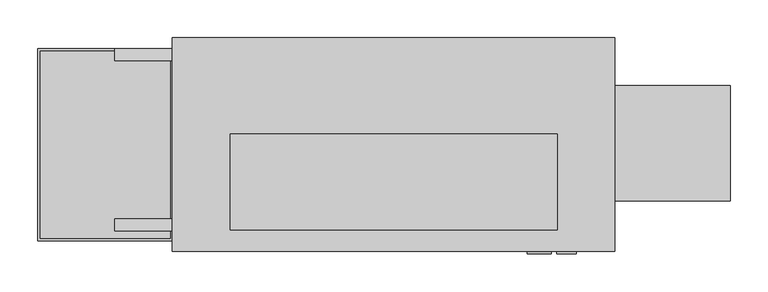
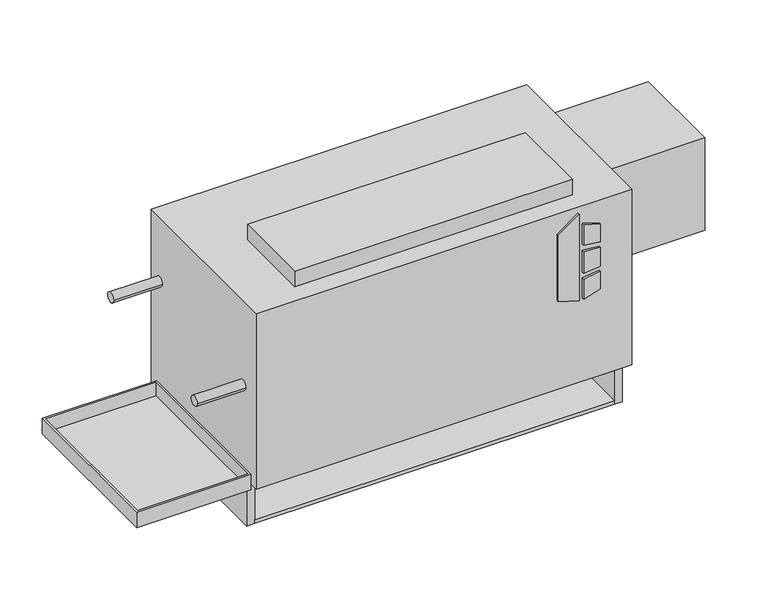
"""IFC4 building model written with IfcOpenShell, lengths in millimetres: proxy geometry, Concealed_Vertical_Low_Boy_Fan_Coil_Unit Fan_-_LHA_-_IEC_-_2-Pipe_LH_2022 : Size 02 - 277v/60Hz/1Ph - 2/1 Coil."""

from ifc_helpers import new_model, si_unit, point, frame, frame_2d, origin, origin_with_axes, place, context, project, spatial, polyline, circle_curve, trimmed, segment, composite_curve, outline, extrude, faceted_brep, source, transform, mapped, element, save


def mechanical_equipment_14cdb50c(model_context):
    return source(origin(), model_context, "Body", "SolidModel", [
        faceted_brep([(152.4, -252.4125, 92.075), (-25.4, -252.4125, 92.075), (-25.4, -506.4125, 92.075), (152.4, -506.4125, 92.075), (-22.225, -255.5875, 92.075), (149.225, -255.5875, 92.075), (149.225, -503.2375, 92.075), (-22.225, -503.2375, 92.075), (152.4, -252.4125, 66.675), (152.4, -506.4125, 66.675), (-25.4, -506.4125, 66.675), (-25.4, -252.4125, 66.675), (149.225, -255.5875, 69.8497888), (-22.225, -255.5875, 69.8497888), (-22.225, -503.2375, 69.8497888), (149.225, -503.2375, 69.8497888)], [[[0, 1, 2, 3], [4, 5, 6, 7]], [[8, 9, 10, 11]], [[1, 0, 8, 11]], [[2, 1, 11, 10]], [[3, 2, 10, 9]], [[0, 3, 9, 8]], [[12, 13, 14, 15]], [[13, 12, 5, 4]], [[14, 13, 4, 7]], [[15, 14, 7, 6]], [[12, 15, 6, 5]]]),
        extrude(outline(composite_curve([segment(trimmed(circle_curve(frame_2d((63.5, -379.4125)), 9.525), [point((53.975, -379.4125))], [point((73.025, -379.4125))], False, "CARTESIAN"), True, "CONTINUOUS"), segment(trimmed(circle_curve(frame_2d((63.5, -379.4125)), 9.525), [point((73.025, -379.4125))], [point((53.975, -379.4125))], False, "CARTESIAN"), True, "CONTINUOUS")], self_intersect=False)), frame((0.0, 0.0, 41.275), z_axis=(0.0, 0.0, 1.0), x_axis=(1.0, 0.0, 0.0)), (0.0, 0.0, 1.0), 25.4),
        extrude(outline(polyline([(222.6730703, 620.7868862), (212.725, 652.9602728), (354.8959244, 652.9602728), (331.8739183, 620.7868862), (222.6730703, 620.7868862)])), frame((0.0, -523.875, 0.0), z_axis=(0.0, 1.0, 0.0), x_axis=(0.0, 0.0, 1.0)), (0.0, 0.0, 1.0), 3.175),
        extrude(outline(polyline([(301.6723557, 659.7186058), (298.4699632, 685.8), (327.6988042, 685.8), (335.7632193, 659.7186058), (301.6723557, 659.7186058)])), frame((0.0, -523.875, 0.0), z_axis=(0.0, 1.0, 0.0), x_axis=(0.0, 0.0, 1.0)), (0.0, 0.0, 1.0), 3.175),
        extrude(outline(polyline([(249.8088288, 685.8), (246.1433279, 659.7186058), (212.725, 659.7186058), (221.3592372, 685.8), (249.8088288, 685.8)])), frame((0.0, -523.875, 0.0), z_axis=(0.0, 1.0, 0.0), x_axis=(0.0, 0.0, 1.0)), (0.0, 0.0, 1.0), 3.175),
        extrude(outline(polyline([(289.1239903, 685.8), (291.4058166, 659.7186058), (255.4682681, 659.7186058), (258.2095331, 685.8), (289.1239903, 685.8)])), frame((0.0, -523.875, 0.0), z_axis=(0.0, 1.0, 0.0), x_axis=(0.0, 0.0, 1.0)), (0.0, 0.0, 1.0), 3.175),
        extrude(outline(polyline([(660.4, -365.125), (660.4, -492.125), (228.6, -492.125), (228.6, -365.125), (660.4, -365.125)])), frame((0.0, 0.0, 365.125), z_axis=(0.0, 0.0, 1.0), x_axis=(1.0, 0.0, 0.0)), (0.0, 0.0, 1.0), 25.4),
        extrude(outline(polyline([(736.6, -520.7), (152.4, -520.7), (152.4, -238.125), (736.6, -238.125), (736.6, -520.7)])), frame((0.0, 0.0, 76.2), z_axis=(0.0, 0.0, 1.0), x_axis=(1.0, 0.0, 0.0)), (0.0, 0.0, 1.0), 288.925),
        extrude(outline(polyline([(723.9, -495.3), (165.1, -495.3), (165.1, -244.475), (723.9, -244.475), (723.9, -495.3)])), origin_with_axes(), (0.0, 0.0, 1.0), 6.35),
        extrude(outline(polyline([(723.9, -238.125), (723.9, -244.475), (165.1, -244.475), (165.1, -238.125), (723.9, -238.125)])), origin_with_axes(), (0.0, 0.0, 1.0), 76.2),
        extrude(outline(polyline([(736.6, -238.125), (736.6, -495.3), (723.9, -495.3), (723.9, -238.125), (736.6, -238.125)])), origin_with_axes(), (0.0, 0.0, 1.0), 76.2),
        extrude(outline(polyline([(165.1, -238.125), (165.1, -495.3), (152.4, -495.3), (152.4, -238.125), (165.1, -238.125)])), origin_with_axes(), (0.0, 0.0, 1.0), 76.2),
        extrude(outline(composite_curve([segment(trimmed(circle_curve(frame_2d((-260.35, 260.35)), 7.9375), [point((-252.4125, 260.35))], [point((-268.2875, 260.35))], False, "CARTESIAN"), True, "CONTINUOUS"), segment(trimmed(circle_curve(frame_2d((-260.35, 260.35)), 7.9375), [point((-268.2875, 260.35))], [point((-252.4125, 260.35))], False, "CARTESIAN"), True, "CONTINUOUS")], self_intersect=False)), frame((76.2, 0.0, 0.0), z_axis=(1.0, 0.0, 0.0), x_axis=(0.0, 1.0, 0.0)), (0.0, 0.0, 1.0), 76.2),
        extrude(outline(composite_curve([segment(trimmed(circle_curve(frame_2d((-485.775, 227.0125)), 7.9375), [point((-477.8375, 227.0125))], [point((-493.7125, 227.0125))], False, "CARTESIAN"), True, "CONTINUOUS"), segment(trimmed(circle_curve(frame_2d((-485.775, 227.0125)), 7.9375), [point((-493.7125, 227.0125))], [point((-477.8375, 227.0125))], False, "CARTESIAN"), True, "CONTINUOUS")], self_intersect=False)), frame((76.2, 0.0, 0.0), z_axis=(1.0, 0.0, 0.0), x_axis=(0.0, 1.0, 0.0)), (0.0, 0.0, 1.0), 76.2),
        extrude(outline(polyline([(736.6, -301.625), (889.0, -301.625), (889.0, -454.025), (736.6, -454.025), (736.6, -301.625)])), frame((0.0, 0.0, 203.5632719), z_axis=(0.0, 0.0, 1.0), x_axis=(1.0, 0.0, 0.0)), (0.0, 0.0, 1.0), 152.0367281),
    ])


if __name__ == "__main__":
    model = new_model("IFC4")
    model_context = context("Model", 3, world=origin())
    ifc_project = project(units=[si_unit("LENGTHUNIT", "METRE", prefix="MILLI")], contexts=[model_context])
    site = spatial("IfcSite", under=ifc_project)
    building = spatial("IfcBuilding", under=site)
    placement = place(None, origin())
    mechanical_equipment_shape = mechanical_equipment_14cdb50c(model_context)
    element("IfcBuildingElementProxy", 1, Name="Concealed_Vertical_Low_Boy_Fan_Coil_Unit Fan_-_LHA_-_IEC_-_2-Pipe_LH_2022 : Size 02 - 277v/60Hz/1Ph - 2/1 Coil", ObjectType="Concealed_Vertical_Low_Boy_Fan_Coil_Unit Fan_-_LHA_-_IEC_-_2-Pipe_LH_2022 : Size 02 - 277v/60Hz/1Ph - 2/1 Coil", at=placement, inside=building, context=model_context, shape_type="MappedRepresentation", body=[
        mapped(mechanical_equipment_shape, transform((0.0, 0.0, 0.0), x_axis=(1.0, 0.0, 0.0), y_axis=(0.0, 1.0, 0.0), z_axis=(0.0, 0.0, 1.0))),
    ])
    save(model, "model.ifc")
